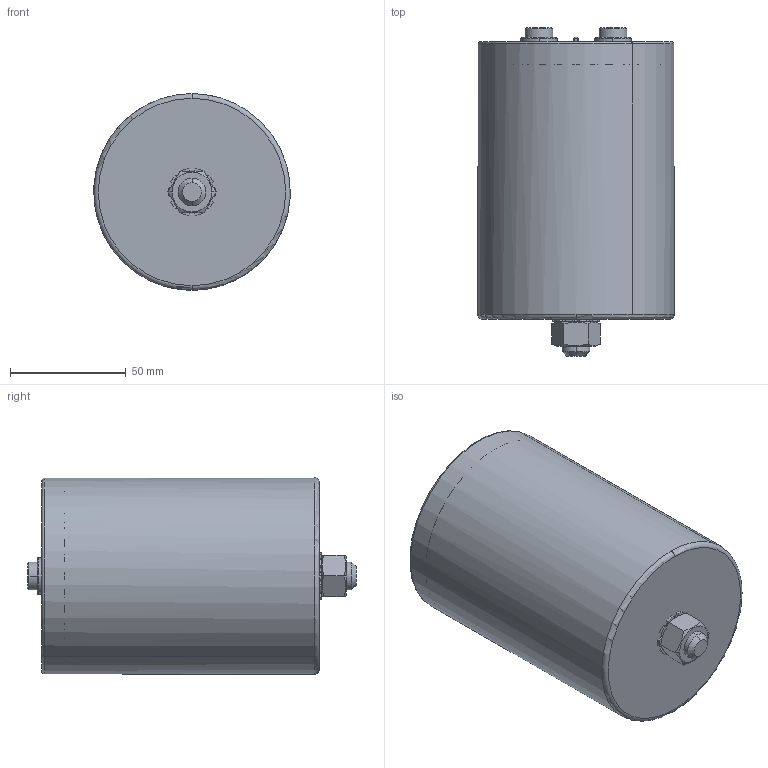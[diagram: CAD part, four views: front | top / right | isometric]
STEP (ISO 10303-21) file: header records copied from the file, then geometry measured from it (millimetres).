
FILE_DESCRIPTION (( 'STEP AP203' ), '1' );
FILE_NAME ('B25690Ax_85x120_126.STEP', '2021-08-30T08:15:38', ( '' ), ( '' ), 'SwSTEP 2.0', 'SolidWorks 2017', '' );
FILE_SCHEMA (( 'CONFIG_CONTROL_DESIGN' ));
Length unit declared in the file: millimetre
Products named in the file (1): B25690Ax_85x120_126
Bounding box: 84.88 x 142 x 85 mm (x, y, z)
Volume: 97778.6 mm3; surface area: 98124.8 mm2
Topology: 1 solids, 3 shells, 260 faces, 678 edges, 434 vertices
Faces by surface type: plane 122, cylinder 71, cone 41, torus 26
Entity records: 8399 total; most frequent: CARTESIAN_POINT 2041, ORIENTED_EDGE 1356, DIRECTION 1336, EDGE_CURVE 678, AXIS2_PLACEMENT_3D 537, VERTEX_POINT 434, CIRCLE 276, EDGE_LOOP 272
